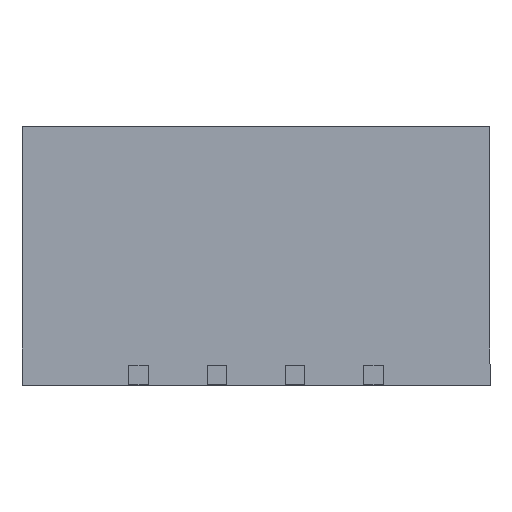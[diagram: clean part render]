
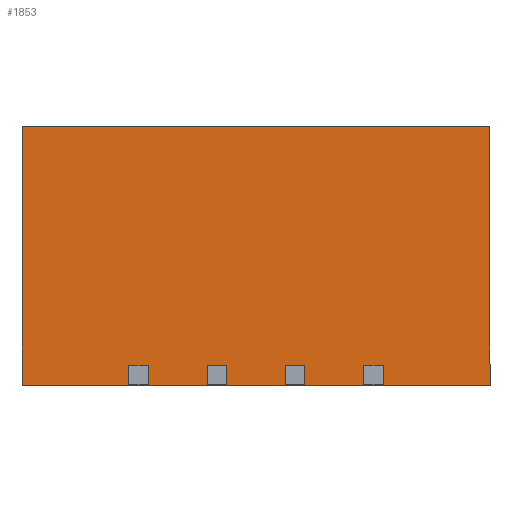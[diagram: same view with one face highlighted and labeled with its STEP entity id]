
A CAD part, top view. The second image highlights one B-rep face of the part: STEP entity #1853.
In plain terms, the highlighted planar face has unit normal (0, 0, 1).
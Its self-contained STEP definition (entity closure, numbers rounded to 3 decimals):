
#238 = EDGE_CURVE ( 'NONE', #629, #2005, #3036, .T. ) ;
#629 = VERTEX_POINT ( 'NONE', #3402 ) ;
#702 = CARTESIAN_POINT ( 'NONE',  ( 0., 6.6, 5.975 ) ) ;
#730 = LINE ( 'NONE', #2343, #3857 ) ;
#943 = CARTESIAN_POINT ( 'NONE',  ( 0., 6.6, 5.975 ) ) ;
#996 = AXIS2_PLACEMENT_3D ( 'NONE', #943, #1366, #4219 ) ;
#1178 = ORIENTED_EDGE ( 'NONE', *, *, #3888, .F. ) ;
#1326 = ORIENTED_EDGE ( 'NONE', *, *, #4744, .F. ) ;
#1366 = DIRECTION ( 'NONE',  ( 0., 0., -1. ) ) ;
#1386 = PLANE ( 'NONE',  #996 ) ;
#1540 = VERTEX_POINT ( 'NONE', #5166 ) ;
#1780 = VECTOR ( 'NONE', #3554, 1000. ) ;
#1840 = VECTOR ( 'NONE', #2542, 1000. ) ;
#1853 = ADVANCED_FACE ( 'NONE', ( #4574 ), #1386, .F. ) ;
#2005 = VERTEX_POINT ( 'NONE', #3677 ) ;
#2343 = CARTESIAN_POINT ( 'NONE',  ( 0., 0., 5.975 ) ) ;
#2357 = CARTESIAN_POINT ( 'NONE',  ( 0., 6.6, 5.975 ) ) ;
#2475 = EDGE_LOOP ( 'NONE', ( #4467, #1178, #3443, #1326 ) ) ;
#2542 = DIRECTION ( 'NONE',  ( 0., -1., 0. ) ) ;
#2830 = CARTESIAN_POINT ( 'NONE',  ( 0., 6.6, 5.975 ) ) ;
#3036 = LINE ( 'NONE', #3385, #1840 ) ;
#3385 = CARTESIAN_POINT ( 'NONE',  ( 11.95, 6.6, 5.975 ) ) ;
#3402 = CARTESIAN_POINT ( 'NONE',  ( 11.95, 6.6, 5.975 ) ) ;
#3443 = ORIENTED_EDGE ( 'NONE', *, *, #238, .F. ) ;
#3529 = DIRECTION ( 'NONE',  ( 0., 1., 0. ) ) ;
#3554 = DIRECTION ( 'NONE',  ( 1., 0., 0. ) ) ;
#3677 = CARTESIAN_POINT ( 'NONE',  ( 11.95, 0., 5.975 ) ) ;
#3857 = VECTOR ( 'NONE', #3952, 1000. ) ;
#3888 = EDGE_CURVE ( 'NONE', #2005, #1540, #730, .T. ) ;
#3952 = DIRECTION ( 'NONE',  ( -1., 0., 0. ) ) ;
#4027 = LINE ( 'NONE', #2357, #1780 ) ;
#4156 = EDGE_CURVE ( 'NONE', #1540, #4530, #4327, .T. ) ;
#4219 = DIRECTION ( 'NONE',  ( -1., 0., 0. ) ) ;
#4229 = VECTOR ( 'NONE', #3529, 1000. ) ;
#4327 = LINE ( 'NONE', #702, #4229 ) ;
#4467 = ORIENTED_EDGE ( 'NONE', *, *, #4156, .F. ) ;
#4530 = VERTEX_POINT ( 'NONE', #2830 ) ;
#4574 = FACE_OUTER_BOUND ( 'NONE', #2475, .T. ) ;
#4744 = EDGE_CURVE ( 'NONE', #4530, #629, #4027, .T. ) ;
#5166 = CARTESIAN_POINT ( 'NONE',  ( 0., 0., 5.975 ) ) ;
